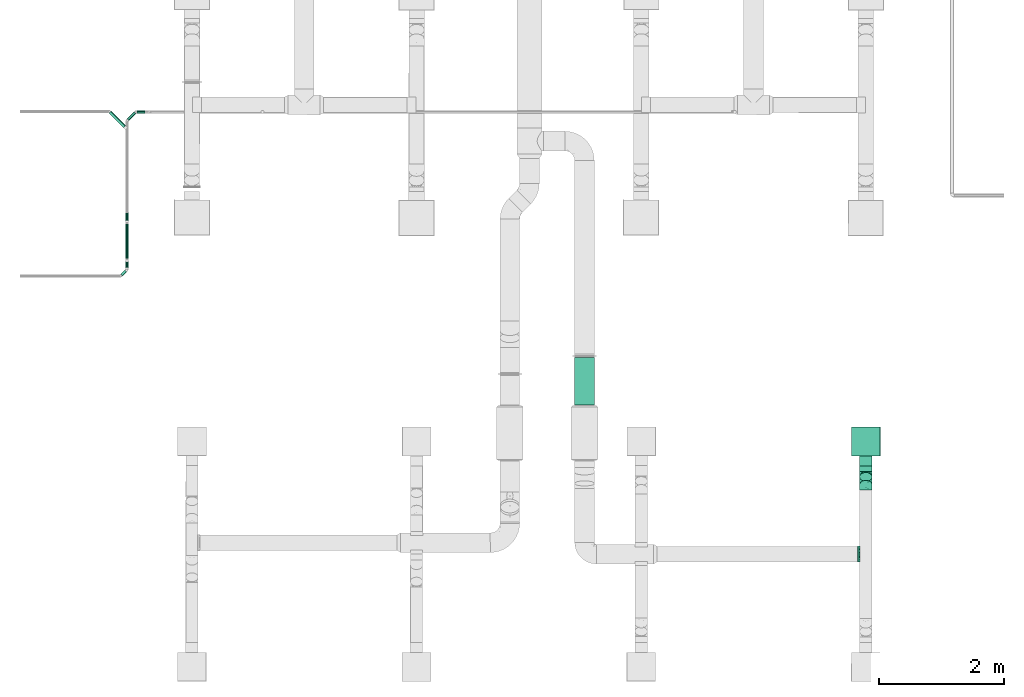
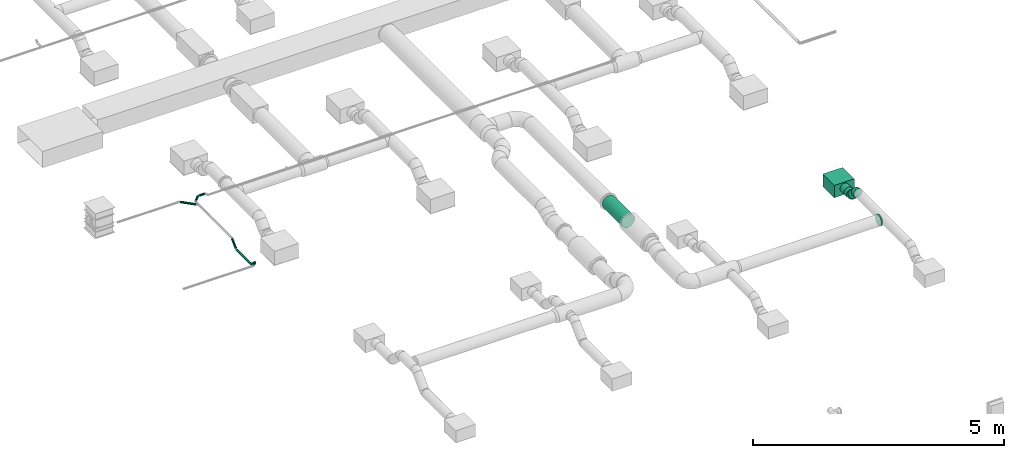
# One storey, part 17 of 63: 10 flow segments, 3 flow fittings, 1 flow terminal.
"""IFC2X3 building model written with IfcOpenShell, lengths in millimetres."""

from ifc_helpers import new_model, entity, si_unit, converted_unit, derived_unit, direction, frame, origin_with_axes, origin_2d_with_axis, place, context, subcontext, project, spatial, hollow_circle, extrude, open_shell, surface_model, source, transform, mapped, type_object, element, save


model = new_model("IFC2X3")

# Units and contexts
model_context = context("Model", 3, precision=0.01, world=frame((0.0, 4.29681676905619e-09, 0.0)), true_north=direction((4.01073788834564e-13, 1.0)))
plan_context = context("Plan", 3, precision=0.01, world=frame((0.0, 4.29681676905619e-09, 0.0)), true_north=direction((4.01073788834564e-13, 1.0)))
body_context = subcontext(model_context, "Body", "Model", "MODEL_VIEW")
ifc_project = project(units=[converted_unit("PLANEANGLEUNIT", "DEGREE", entity("IfcPositiveLengthMeasure", 0.0174532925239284), si_unit("PLANEANGLEUNIT", "RADIAN"), dimensions=[0, 0, 0, 0, 0, 0, 0]), si_unit("AREAUNIT", "SQUARE_METRE"), si_unit("LENGTHUNIT", "METRE", prefix="MILLI"), si_unit("MASSUNIT", "GRAM", prefix="KILO"), si_unit("POWERUNIT", "WATT"), si_unit("PRESSUREUNIT", "PASCAL"), si_unit("FORCEUNIT", "NEWTON", prefix="KILO"), si_unit("ELECTRICVOLTAGEUNIT", "VOLT"), si_unit("ELECTRICCURRENTUNIT", "AMPERE"), si_unit("THERMODYNAMICTEMPERATUREUNIT", "DEGREE_CELSIUS"), si_unit("TIMEUNIT", "SECOND"), si_unit("VOLUMEUNIT", "CUBIC_METRE"), derived_unit("LINEARVELOCITYUNIT", [(si_unit("LENGTHUNIT", "METRE"), 1), (si_unit("TIMEUNIT", "SECOND"), -1)]), derived_unit("VOLUMETRICFLOWRATEUNIT", [(si_unit("VOLUMEUNIT", "CUBIC_METRE"), 1), (si_unit("TIMEUNIT", "SECOND"), -1)]), derived_unit("THERMALTRANSMITTANCEUNIT", [(si_unit("POWERUNIT", "WATT"), 1), (si_unit("THERMODYNAMICTEMPERATUREUNIT", "KELVIN"), -1), (si_unit("AREAUNIT", "SQUARE_METRE"), -1)]), derived_unit("SOUNDPRESSUREUNIT", [(si_unit("PRESSUREUNIT", "PASCAL"), 1)])], contexts=[model_context, plan_context])

# Site, building, storey
site_placement = place(None, frame((0.0, -4.29681676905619e-09, 0.0), z_axis=(0.0, 0.0, 1.0), x_axis=(1.0, 0.0, 0.0)))
site = spatial("IfcSite", under=ifc_project, at=site_placement, CompositionType="ELEMENT")
building_placement = place(site_placement, frame((0.0, 4.29681676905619e-09, 0.0), z_axis=(0.0, 0.0, 1.0), x_axis=(1.0, 0.0, 0.0)))
building = spatial("IfcBuilding", under=site, at=building_placement, Name="mc-building", CompositionType="ELEMENT")
storey_placement = place(building_placement, frame((0.0, 0.0, 210900.0), z_axis=(0.0, 0.0, 1.0), x_axis=(1.0, 0.0, 0.0)))
storey = spatial("IfcBuildingStorey", under=building, at=storey_placement, Name="Nivå F", CompositionType="ELEMENT", Elevation=210900.0)

# Flow fittings
duct_fitting_type_1 = type_object("IfcDuctFittingType", Name="magicirc_elbow_short_001", PredefinedType="BEND")
shared_shape_1 = source(origin_with_axes(), body_context, "Body", "SurfaceModel", [
    surface_model("IfcShellBasedSurfaceModel", [(-49.70563, 50.0, -86.60254), (-49.70563, 25.8819, -96.59259), (-49.70563, 70.71068, -70.71068), (-49.70563, 96.59259, -25.8819), (-49.70563, 86.60254, -50.0), (-49.70563, 86.60254, 50.0), (-49.70563, 96.59259, 25.8819), (-49.70563, 25.8819, 96.59259), (-49.70563, 50.0, 86.60254), (-49.70563, 70.71068, 70.71068), (-49.70563, -25.8819, 96.59259), (-49.70563, 0.0, 100.0), (-49.70563, 100.0, 0.0), (12.37742, -29.88175, 90.64522), (37.12404, -18.70607, 89.97421), (4.68854, -11.31914, 97.51858), (-15.97928, 38.57739, 94.78597), (-33.08073, 79.86395, 64.3352), (-38.64634, 93.30051, 41.23913), (-23.56301, 62.37217, 82.35825), (22.87885, -55.23445, 71.73393), (28.07272, 6.98114, 98.51039), (7.39001, 23.69873, 99.67584), (-26.09006, 96.38443, 50.0), (16.84592, 53.44845, 96.59259), (-33.15408, 103.44845, 25.8819), (-0.20815, 70.50252, 86.60254), (-49.70563, 0.0, -100.0), (-21.98306, 11.532, -99.67584), (4.68854, -11.31915, -97.51858), (6.95764, 23.32334, -99.68416), (-15.97928, 38.57738, -94.78597), (-0.20815, 70.50252, -86.60254), (16.84592, 53.44845, -96.59259), (60.35471, -50.93633, -55.32131), (28.49827, -69.68635, -52.39492), (22.87886, -55.23445, -71.73393), (28.07272, 6.98113, -98.51039), (-49.70565, -96.59259, -25.8819), (-49.70565, -100.0, 0.0), (-49.70565, -86.60254, -50.0), (-14.85282, 85.14719, -70.71068), (-26.09007, 96.38443, -50.0), (-33.1541, 103.44846, -25.8819), (-24.86597, -97.5535, 0.0), (-6.78576, -95.77276, 0.0), (-18.13184, -91.89202, 33.47276), (-13.02349, -39.47786, 89.97421), (-18.231, -62.02139, 76.22982), (-21.41192, 11.5723, 99.68416), (-49.70565, -86.60254, 50.0), (-49.70565, -96.59259, 25.8819), (22.49479, -82.45996, 31.38069), (50.71647, -68.4272, 35.42053), (29.12437, -69.42701, 52.3949), (13.84949, -89.51313, 0.0), (34.48473, -83.25349, 0.0), (12.37743, -29.88176, -90.64522), (-13.02349, -39.47786, -89.97421), (-42.05198, 101.52241, 0.0), (-35.56351, 105.85786, 0.0), (-38.64635, 93.30051, -41.23913), (37.12406, -18.70605, -89.97421), (1.72867, -92.12319, -18.52111), (-33.08075, 79.86395, -64.3352), (-27.44224, 60.76535, -82.35825), (-24.78683, -14.914, 98.51039), (-49.70565, -70.71068, -70.71068), (-6.65981, -78.69465, -55.32131), (-24.78683, -14.91401, -98.51039), (-49.70563, -50.0, -86.60254), (-49.70563, -25.8819, -96.59259), (-49.70563, -70.71068, 70.71068), (-49.70563, -50.0, 86.60254), (35.14719, 35.1472, -100.0), (103.44846, -33.15406, 25.8819), (96.38444, -26.09004, -50.0), (53.44846, 16.84593, -96.59259), (85.14719, -14.8528, -70.71068), (70.50253, -0.20814, -86.60254), (105.85787, -35.56347, 0.0), (103.44846, -33.15406, -25.8819), (-14.85282, 85.14719, 70.71068), (85.14719, -14.8528, 70.71068), (96.38444, -26.09004, 50.0), (70.50253, -0.20814, 86.60254), (53.44846, 16.84593, 96.59259), (35.14719, 35.1472, 100.0), (-6.6598, -78.69465, 55.32131), (42.49431, -77.9055, 18.20626), (72.51983, -62.9233, 0.0), (86.56365, -51.39784, 0.0), (63.91858, -66.36329, 18.52111), (77.79861, -52.15632, 33.47277), (60.35471, -50.93634, 55.32131), (56.74699, -30.96449, 76.22981), (53.50228, -73.08841, 0.0), (-18.13182, -91.89201, -33.47277), (77.79861, -52.15632, -33.47277), (-18.23098, -62.02139, -76.22982), (42.40177, -74.21421, -31.38069), (12.52339, -84.24729, -35.42053), (25.03951, -85.13552, -18.20627), (56.747, -30.96448, -76.22982)], [open_shell([[[0, 1, 2]], [[3, 4, 2]], [[5, 6, 7]], [[7, 8, 9]], [[5, 7, 9]], [[10, 11, 7]], [[6, 12, 3]], [[13, 14, 15]], [[8, 7, 16]], [[17, 5, 9]], [[6, 5, 18]], [[19, 8, 16]], [[13, 20, 14]], [[15, 21, 22]], [[17, 23, 18]], [[16, 22, 24]], [[25, 18, 23]], [[24, 26, 16]], [[26, 19, 16]], [[8, 19, 9]], [[19, 17, 9]], [[14, 21, 15]], [[6, 18, 25]], [[17, 18, 5]], [[27, 1, 28]], [[29, 28, 30]], [[31, 28, 1]], [[0, 31, 1]], [[32, 33, 31]], [[31, 33, 30]], [[30, 28, 31]], [[34, 35, 36]], [[30, 37, 29]], [[38, 39, 40]], [[41, 42, 43]], [[44, 45, 46]], [[47, 48, 20]], [[15, 22, 49]], [[46, 50, 51]], [[46, 51, 44]], [[52, 53, 54]], [[49, 22, 16]], [[51, 39, 44]], [[46, 55, 52]], [[15, 47, 13]], [[20, 13, 47]], [[55, 46, 45]], [[55, 56, 52]], [[57, 36, 58]], [[59, 60, 43]], [[43, 42, 61]], [[62, 57, 29]], [[45, 44, 63]], [[42, 41, 64]], [[65, 64, 41]], [[64, 61, 42]], [[55, 45, 63]], [[44, 39, 38]], [[36, 57, 62]], [[58, 29, 57]], [[15, 66, 47]], [[49, 66, 15]], [[67, 68, 40]], [[29, 69, 28]], [[58, 69, 29]], [[27, 67, 1]], [[40, 2, 1]], [[2, 40, 3]], [[70, 67, 71]], [[67, 27, 71]], [[40, 1, 67]], [[40, 39, 3]], [[39, 6, 3]], [[7, 6, 39]], [[10, 7, 39]], [[72, 73, 50]], [[51, 50, 73]], [[73, 10, 51]], [[51, 10, 39]], [[74, 75, 76]], [[41, 33, 32]], [[33, 75, 74]], [[33, 41, 75]], [[77, 78, 79]], [[77, 74, 78]], [[76, 80, 81]], [[78, 74, 76]], [[76, 75, 80]], [[41, 43, 23]], [[25, 23, 43]], [[23, 24, 41]], [[82, 26, 24]], [[82, 24, 23]], [[41, 24, 75]], [[75, 83, 84]], [[83, 75, 85]], [[75, 86, 85]], [[75, 24, 86]], [[24, 87, 86]], [[43, 60, 25]], [[88, 50, 46]], [[88, 52, 54]], [[73, 48, 47]], [[72, 50, 88]], [[66, 11, 10]], [[7, 11, 49]], [[10, 73, 47]], [[17, 19, 82]], [[16, 7, 49]], [[73, 72, 48]], [[56, 89, 52]], [[59, 6, 25]], [[90, 91, 92]], [[59, 12, 6]], [[53, 93, 94]], [[66, 49, 11]], [[88, 46, 52]], [[72, 88, 48]], [[86, 21, 14]], [[94, 84, 83]], [[85, 86, 14]], [[93, 84, 94]], [[83, 85, 95]], [[14, 95, 85]], [[93, 91, 75]], [[86, 87, 21]], [[53, 92, 93]], [[60, 59, 25]], [[87, 24, 22]], [[95, 20, 94]], [[82, 19, 26]], [[84, 93, 75]], [[20, 95, 14]], [[89, 96, 92]], [[94, 83, 95]], [[20, 48, 88]], [[82, 23, 17]], [[54, 94, 20]], [[94, 54, 53]], [[88, 54, 20]], [[47, 66, 10]], [[22, 21, 87]], [[92, 53, 89]], [[53, 52, 89]], [[96, 89, 56]], [[96, 90, 92]], [[93, 92, 91]], [[91, 80, 75]], [[78, 76, 34]], [[77, 79, 62]], [[69, 71, 27]], [[4, 61, 64]], [[32, 65, 41]], [[31, 0, 65]], [[0, 2, 65]], [[33, 74, 30]], [[61, 3, 43]], [[68, 97, 40]], [[98, 81, 91]], [[97, 44, 38]], [[99, 70, 58]], [[100, 101, 35]], [[99, 67, 70]], [[40, 97, 38]], [[101, 97, 68]], [[70, 71, 58]], [[102, 55, 63]], [[99, 36, 68]], [[56, 102, 100]], [[3, 12, 59]], [[68, 67, 99]], [[32, 31, 65]], [[34, 100, 35]], [[69, 58, 71]], [[4, 64, 2]], [[62, 29, 37]], [[36, 62, 103]], [[62, 79, 103]], [[98, 76, 81]], [[74, 77, 37]], [[98, 34, 76]], [[64, 65, 2]], [[98, 91, 90]], [[101, 63, 97]], [[100, 34, 98]], [[79, 78, 103]], [[37, 30, 74]], [[36, 103, 34]], [[43, 3, 59]], [[36, 99, 58]], [[78, 34, 103]], [[35, 68, 36]], [[97, 63, 44]], [[68, 35, 101]], [[28, 69, 27]], [[62, 37, 77]], [[63, 101, 102]], [[101, 100, 102]], [[98, 96, 100]], [[55, 102, 56]], [[3, 61, 4]], [[81, 80, 91]], [[96, 98, 90]], [[96, 56, 100]]])]),
])
for number, where, z_axis, x_axis, name in (
    (1, (534105.56807, 446665.21066, 3935.01186999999), (-0.999999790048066, 0.000647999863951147, 0.0), (-0.000647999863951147, -0.999999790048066, 0.0), "magicirc_elbow_short_001"),
    (2, (534105.44099, 446469.02263, 4131.20000000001), (0.999999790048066, -0.000647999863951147, -3.79470760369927e-19), (-0.000458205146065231, -0.707106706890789, 0.707106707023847), "magicirc_elbow_short_001"),
):
    element("IfcFlowFitting", number, at=place(storey_placement, frame(where, z_axis=z_axis, x_axis=x_axis)), inside=storey, type_object=duct_fitting_type_1, Name=name, context=body_context, shape_type="MappedRepresentation", body=[
        mapped(shared_shape_1, transform((0.0, 0.0, 0.0), scale=1.0)),
    ])
duct_fitting_type_2 = type_object("IfcDuctFittingType", Name="magicirc_tapoutlet_001", PredefinedType="CONNECTOR")
shared_shape_2 = source(origin_with_axes(), body_context, "Body", "SurfaceModel", [
    surface_model("IfcShellBasedSurfaceModel", [(25.0, 62.5, -108.25318), (25.0, 125.0, 0.0), (25.0, 32.35238, -120.74073), (25.0, -88.38835, -88.38835), (25.0, 0.0, -125.0), (25.0, -120.74073, 32.35238), (25.0, -62.5, -108.25318), (25.0, -32.35238, -120.74073), (25.0, -108.25318, -62.5), (25.0, -120.74073, -32.35238), (25.0, -125.0, 0.0), (25.0, 108.25318, -62.5), (25.0, 120.74073, -32.35238), (25.0, 120.74073, 32.35238), (25.0, 108.25318, 62.5), (25.0, 88.38835, 88.38835), (25.0, 32.35238, 120.74073), (25.0, 62.5, 108.25318), (25.0, -62.5, 108.25318), (25.0, -88.38835, 88.38835), (25.0, -108.25318, 62.5), (25.0, 0.0, 125.0), (25.0, -32.35238, 120.74073), (0.0, 0.0, 125.0), (0.0, 32.35238, 120.74073), (0.0, 62.5, 108.25318), (0.0, 88.38835, 88.38835), (0.0, 108.25318, 62.5), (0.0, 120.74073, 32.35238), (0.0, 125.0, 0.0), (0.0, 120.74073, -32.35238), (0.0, 108.25318, -62.5), (25.0, 88.38835, -88.38835), (0.0, 88.38835, -88.38835), (0.0, 0.0, -125.0), (0.0, 32.35238, -120.74073), (0.0, 62.5, -108.25318), (0.0, -32.35238, -120.74073), (0.0, -62.5, -108.25318), (0.0, -88.38835, -88.38835), (0.0, -108.25318, -62.5), (0.0, -120.74073, -32.35238), (0.0, -125.0, 0.0), (0.0, -120.74073, 32.35238), (0.0, -108.25318, 62.5), (0.0, -88.38835, 88.38835), (0.0, -62.5, 108.25318), (0.0, -32.35238, 120.74073), (-6.17869, 0.0, -125.0), (-6.17869, -32.35238, -120.74073), (-6.17869, 32.35238, -120.74073), (-6.17869, 120.74073, 32.35238), (-6.17869, 62.5, -108.25318), (-6.17869, 88.38835, -88.38835), (-6.17869, 108.25318, -62.5), (-6.17869, -125.0, 0.0), (-6.17869, -120.74073, 32.35238), (-6.17869, -88.38835, -88.38835), (-6.17869, -62.5, -108.25318), (-6.17869, -120.74073, -32.35238), (-6.17869, -108.25318, -62.5), (-6.17869, 120.74073, -32.35238), (-6.17869, 108.25318, 62.5), (-6.17869, 62.5, 108.25318), (-6.17869, 32.35238, 120.74073), (-6.17869, 88.38835, 88.38835), (-6.17869, 0.0, 125.0), (-6.17869, -108.25318, 62.5), (-6.17869, -88.38835, 88.38835), (-6.17869, -32.35238, 120.74073), (-6.17869, -62.5, 108.25318), (-6.17869, 125.0, 0.0)], [open_shell([[[0, 1, 2]], [[3, 4, 5]], [[4, 3, 6]], [[6, 7, 4]], [[8, 5, 9]], [[5, 10, 9]], [[1, 11, 12]], [[13, 14, 4]], [[4, 14, 15]], [[16, 4, 17]], [[4, 15, 17]], [[18, 4, 16]], [[19, 20, 4]], [[16, 21, 22]], [[23, 21, 16]], [[24, 16, 17]], [[23, 16, 24]], [[25, 15, 26]], [[25, 24, 17]], [[15, 25, 17]], [[27, 14, 13]], [[28, 13, 1]], [[26, 14, 27]], [[28, 27, 13]], [[29, 28, 1]], [[14, 26, 15]], [[29, 1, 12]], [[30, 12, 11]], [[29, 12, 30]], [[31, 32, 33]], [[31, 30, 11]], [[32, 31, 11]], [[2, 4, 34]], [[0, 2, 35]], [[33, 0, 36]], [[34, 35, 2]], [[0, 35, 36]], [[0, 33, 32]], [[34, 4, 7]], [[37, 7, 6]], [[34, 7, 37]], [[38, 3, 39]], [[38, 37, 6]], [[3, 38, 6]], [[40, 8, 9]], [[41, 9, 10]], [[39, 8, 40]], [[41, 40, 9]], [[42, 41, 10]], [[8, 39, 3]], [[42, 10, 5]], [[43, 5, 20]], [[42, 5, 43]], [[44, 19, 45]], [[44, 43, 20]], [[19, 44, 20]], [[46, 18, 22]], [[47, 22, 21]], [[45, 18, 46]], [[47, 46, 22]], [[23, 47, 21]], [[18, 45, 19]], [[8, 3, 5]], [[10, 9, 5]], [[19, 4, 18]], [[16, 22, 18]], [[1, 13, 4]], [[2, 1, 4]], [[32, 11, 1]], [[32, 1, 0]], [[4, 6, 7]], [[4, 14, 17]], [[17, 14, 15]], [[4, 16, 18]], [[4, 20, 5]], [[14, 4, 13]], [[17, 16, 4]], [[4, 19, 20]], [[4, 18, 19]], [[21, 22, 16]], [[4, 1, 13]], [[48, 49, 50]], [[50, 51, 52]], [[53, 51, 54]], [[52, 51, 53]], [[50, 55, 56]], [[57, 55, 58]], [[50, 49, 58]], [[59, 55, 60]], [[57, 60, 55]], [[58, 55, 50]], [[61, 54, 51]], [[62, 51, 50]], [[63, 62, 50]], [[63, 50, 64]], [[65, 62, 63]], [[66, 64, 50]], [[56, 67, 50]], [[67, 68, 50]], [[69, 66, 70]], [[68, 70, 66]], [[50, 68, 66]], [[71, 61, 51]], [[66, 23, 24]], [[64, 24, 25]], [[66, 24, 64]], [[63, 26, 65]], [[63, 64, 25]], [[26, 63, 25]], [[62, 27, 28]], [[51, 28, 29]], [[65, 27, 62]], [[51, 62, 28]], [[71, 51, 29]], [[27, 65, 26]], [[71, 29, 30]], [[61, 30, 31]], [[71, 30, 61]], [[54, 33, 53]], [[54, 61, 31]], [[33, 54, 31]], [[35, 34, 48]], [[36, 35, 50]], [[53, 36, 52]], [[48, 50, 35]], [[36, 50, 52]], [[36, 53, 33]], [[48, 34, 37]], [[49, 37, 38]], [[48, 37, 49]], [[58, 39, 57]], [[58, 49, 38]], [[39, 58, 38]], [[60, 40, 41]], [[59, 41, 42]], [[57, 40, 60]], [[59, 60, 41]], [[55, 59, 42]], [[40, 57, 39]], [[55, 42, 43]], [[56, 43, 44]], [[55, 43, 56]], [[67, 45, 68]], [[67, 56, 44]], [[45, 67, 44]], [[70, 46, 47]], [[69, 47, 23]], [[68, 46, 70]], [[69, 70, 47]], [[66, 69, 23]], [[46, 68, 45]]])]),
])
flow_fitting_placement = place(storey_placement, frame((534004.74383, 445392.76929, 4131.19871999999), z_axis=(0.0, 0.0, 1.0), x_axis=(-1.0, 0.0, 0.0)))
element("IfcFlowFitting", 3, at=flow_fitting_placement, inside=storey, type_object=duct_fitting_type_2, Name="magicirc_tapoutlet_001", context=body_context, shape_type="MappedRepresentation", body=[
    mapped(shared_shape_2, transform((0.0, 0.0, 0.0), scale=1.0)),
])

# Flow segments
duct_segment_type_1 = type_object("IfcDuctSegmentType", Name="Sirkulær kanal", PredefinedType="RIGIDSEGMENT")
shared_shape_3 = source(origin_with_axes(), body_context, "Body", "SweptSolid", [
    extrude(hollow_circle(Radius=25.0, WallThickness=2.0, at=origin_2d_with_axis()), frame((0.0, 0.0, 0.0), z_axis=(1.0, 0.0, 0.0), x_axis=(0.0, 1.0, 0.0)), (0.0, 0.0, 1.0), 125.0),
])
flow_segment_1_placement = place(storey_placement, frame((522423.29393, 452482.42641, 4480.0), z_axis=(0.0, 0.0, 1.0), x_axis=(1.0, 0.0, 0.0)))
element("IfcFlowSegment", 4, at=flow_segment_1_placement, inside=storey, type_object=duct_segment_type_1, Name="Sirkulær kanal", context=body_context, shape_type="MappedRepresentation", body=[
    mapped(shared_shape_3, transform((0.0, 0.0, 0.0), scale=1.0)),
])
shared_shape_4 = source(origin_with_axes(), body_context, "Body", "SweptSolid", [
    extrude(hollow_circle(Radius=25.0, WallThickness=2.0, at=origin_2d_with_axis()), frame((0.0, 0.0, 0.0), z_axis=(1.0, 0.0, 0.0), x_axis=(0.0, 1.0, 0.0)), (0.0, 0.0, 1.0), 160.2),
])
flow_segment_2_placement = place(storey_placement, frame((522274.64466, 452354.48782, 4480.0), z_axis=(0.0, 0.0, 1.0), x_axis=(0.707106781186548, 0.707106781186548, 0.0)))
element("IfcFlowSegment", 5, at=flow_segment_2_placement, inside=storey, type_object=duct_segment_type_1, Name="Sirkulær kanal", context=body_context, shape_type="MappedRepresentation", body=[
    mapped(shared_shape_4, transform((0.0, 0.0, 0.0), scale=1.0)),
])
shared_shape_5 = source(origin_with_axes(), body_context, "Body", "SweptSolid", [
    extrude(hollow_circle(Radius=25.0, WallThickness=2.0, at=origin_2d_with_axis()), frame((0.0, 0.0, 0.0), z_axis=(1.0, 0.0, 0.0), x_axis=(0.0, 1.0, 0.0)), (0.0, 0.0, 1.0), 213.6),
])
flow_segment_3_placement = place(storey_placement, frame((522260.0, 450875.1985, 4465.35534000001), z_axis=(0.0, -0.707106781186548, 0.707106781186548), x_axis=(0.0, -0.707106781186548, -0.707106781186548)))
element("IfcFlowSegment", 6, at=flow_segment_3_placement, inside=storey, type_object=duct_segment_type_1, Name="Sirkulær kanal", context=body_context, shape_type="MappedRepresentation", body=[
    mapped(shared_shape_5, transform((0.0, 0.0, 0.0), scale=1.0)),
])
shared_shape_6 = source(origin_with_axes(), body_context, "Body", "SweptSolid", [
    extrude(hollow_circle(Radius=25.0, WallThickness=2.0, at=origin_2d_with_axis()), frame((0.0, 0.0, 0.0), z_axis=(1.0, 0.0, 0.0), x_axis=(0.0, 1.0, 0.0)), (0.0, 0.0, 1.0), 558.6),
])
flow_segment_4_placement = place(storey_placement, frame((522260.0, 450688.82025, 4299.68776999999), z_axis=(0.0, 0.0, 1.0), x_axis=(0.0, -1.0, 0.0)))
element("IfcFlowSegment", 7, at=flow_segment_4_placement, inside=storey, type_object=duct_segment_type_1, Name="Sirkulær kanal", context=body_context, shape_type="MappedRepresentation", body=[
    mapped(shared_shape_6, transform((0.0, 0.0, 0.0), scale=1.0)),
])
shared_shape_7 = source(origin_with_axes(), body_context, "Body", "SweptSolid", [
    extrude(hollow_circle(Radius=25.0, WallThickness=2.0, at=origin_2d_with_axis()), frame((0.0, 0.0, 0.0), z_axis=(1.0, 0.0, 0.0), x_axis=(0.0, 1.0, 0.0)), (0.0, 0.0, 1.0), 175.4),
])
flow_segment_5_placement = place(storey_placement, frame((522260.0, 450094.88627, 4314.33243000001), z_axis=(0.0, 0.707106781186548, 0.707106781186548), x_axis=(0.0, -0.707106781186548, 0.707106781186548)))
element("IfcFlowSegment", 8, at=flow_segment_5_placement, inside=storey, type_object=duct_segment_type_1, Name="Sirkulær kanal", context=body_context, shape_type="MappedRepresentation", body=[
    mapped(shared_shape_7, transform((0.0, 0.0, 0.0), scale=1.0)),
])
shared_shape_8 = source(origin_with_axes(), body_context, "Body", "SweptSolid", [
    extrude(hollow_circle(Radius=25.0, WallThickness=2.0, at=origin_2d_with_axis()), frame((0.0, 0.0, 0.0), z_axis=(1.0, 0.0, 0.0), x_axis=(0.0, 1.0, 0.0)), (0.0, 0.0, 1.0), 90.4),
])
flow_segment_6_placement = place(storey_placement, frame((522239.5894, 449930.0213, 4458.78951999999), z_axis=(6.59999997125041e-05, 6.59999997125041e-05, 0.999999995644), x_axis=(-0.70710677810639, -0.70710677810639, 9.33380947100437e-05)))
element("IfcFlowSegment", 9, at=flow_segment_6_placement, inside=storey, type_object=duct_segment_type_1, Name="Sirkulær kanal", context=body_context, shape_type="MappedRepresentation", body=[
    mapped(shared_shape_8, transform((0.0, 0.0, 0.0), scale=1.0)),
])
shared_shape_9 = source(origin_with_axes(), body_context, "Body", "SweptSolid", [
    extrude(hollow_circle(Radius=25.0, WallThickness=2.0, at=origin_2d_with_axis()), frame((0.0, 0.0, 0.0), z_axis=(1.0, 0.0, 0.0), x_axis=(0.0, 1.0, 0.0)), (0.0, 0.0, 1.0), 325.9),
])
flow_segment_7_placement = place(storey_placement, frame((522220.85786, 452244.88772, 4480.0), z_axis=(0.0, 0.0, 1.0), x_axis=(-0.707106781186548, 0.707106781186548, 0.0)))
element("IfcFlowSegment", 10, at=flow_segment_7_placement, inside=storey, type_object=duct_segment_type_1, Name="Sirkulær kanal", context=body_context, shape_type="MappedRepresentation", body=[
    mapped(shared_shape_9, transform((0.0, 0.0, 0.0), scale=1.0)),
])
duct_segment_type_2 = type_object("IfcDuctSegmentType", Name="KK002T - Spiro kanaler, Forsinket stål, korte bend", PredefinedType="RIGIDSEGMENT")
shared_shape_10 = source(origin_with_axes(), body_context, "Body", "SweptSolid", [
    extrude(hollow_circle(Radius=100.0, WallThickness=2.0, at=origin_2d_with_axis()), frame((0.0, 0.0, 0.0), z_axis=(1.0, 0.0, 0.0), x_axis=(0.0, 1.0, 0.0)), (0.0, 0.0, 1.0), 178.0),
])
flow_segment_8_placement = place(storey_placement, frame((534105.5453, 446630.06348, 3970.15906999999), z_axis=(0.00045799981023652, 0.707106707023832, 0.707106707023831), x_axis=(-0.000457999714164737, -0.707106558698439, 0.707106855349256)))
element("IfcFlowSegment", 11, at=flow_segment_8_placement, inside=storey, type_object=duct_segment_type_2, Name="KK002T - Spiro kanaler, Forsinket stål, korte bend", context=body_context, shape_type="MappedRepresentation", body=[
    mapped(shared_shape_10, transform((0.0, 0.0, 0.0), scale=1.0)),
])
shared_shape_11 = source(origin_with_axes(), body_context, "Body", "SweptSolid", [
    extrude(hollow_circle(Radius=100.0, WallThickness=2.0, at=origin_2d_with_axis()), frame((0.0, 0.0, 0.0), z_axis=(1.0, 0.0, 0.0), x_axis=(0.0, 1.0, 0.0)), (0.0, 0.0, 1.0), 93.1),
])
flow_segment_9_placement = place(storey_placement, frame((534105.6606, 446808.06158, 3935.01186999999), z_axis=(0.0, 0.0, 1.0), x_axis=(-0.000647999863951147, -0.999999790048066, 0.0)))
element("IfcFlowSegment", 12, at=flow_segment_9_placement, inside=storey, type_object=duct_segment_type_2, Name="KK002T - Spiro kanaler, Forsinket stål, korte bend", context=body_context, shape_type="MappedRepresentation", body=[
    mapped(shared_shape_11, transform((0.0, 0.0, 0.0), scale=1.0)),
])
shared_shape_12 = source(origin_with_axes(), body_context, "Body", "SweptSolid", [
    extrude(hollow_circle(Radius=157.5, WallThickness=2.0, at=origin_2d_with_axis()), frame((0.0, 0.0, 0.0), z_axis=(1.0, 0.0, 0.0), x_axis=(0.0, 1.0, 0.0)), (0.0, 0.0, 1.0), 760.1),
])
flow_segment_10_placement = place(storey_placement, frame((529594.70329, 447782.40275, 4200.0), z_axis=(0.0, 0.0, 1.0), x_axis=(0.0, 1.0, 0.0)))
element("IfcFlowSegment", 13, at=flow_segment_10_placement, inside=storey, type_object=duct_segment_type_1, Name="Sirkulær kanal", context=body_context, shape_type="MappedRepresentation", body=[
    mapped(shared_shape_12, transform((0.0, 0.0, 0.0), scale=1.0)),
])

# Flow terminal
air_terminal_type = type_object("IfcAirTerminalType", Name="NS19-H-S-2-200 - 4-way", PredefinedType="NOTDEFINED")
shared_shape_13 = source(origin_with_axes(), body_context, "Body", "SurfaceModel", [
    surface_model("IfcShellBasedSurfaceModel", [(-231.99999, 231.99999, 0.0), (-231.99999, -231.99999, 0.0), (231.99999, -231.99999, 0.0), (231.99999, 231.99999, 0.0), (231.99999, 231.99999, -10.0), (231.99999, -231.99999, -10.0), (-231.99999, -231.99999, -10.0), (-231.99999, 231.99999, -10.0), (-230.0, 230.0, 289.99999), (-230.0, -230.0, 289.99999), (230.0, -230.0, 289.99999), (230.0, 230.0, 289.99999), (230.0, 230.0, 0.0), (230.0, -230.0, 0.0), (-230.0, -230.0, 0.0), (-230.0, 230.0, 0.0), (-230.0, 50.0, 78.39746), (-230.0, 70.71068, 94.28932), (-230.0, 49.9, 78.57067), (-230.0, 25.83014, 68.6006), (-230.0, 0.0, 65.2), (-230.0, 25.8819, 68.40742), (-230.0, 0.0, 65.0), (-230.0, 70.56926, 94.43075), (-230.0, 96.59259, 139.1181), (-230.0, 99.8, 164.99999), (-230.0, 96.39939, 139.16986), (-230.0, 100.0, 164.99999), (-230.0, 86.60254, 115.0), (-230.0, 86.42934, 115.1), (-230.0, -25.83014, 68.6006), (-230.0, -25.8819, 68.40742), (-230.0, -49.9, 78.57067), (-230.0, -70.71068, 94.28932), (-230.0, -50.0, 78.39746), (-230.0, -70.56926, 94.43075), (-230.0, -86.42934, 115.1), (-230.0, -86.60254, 115.0), (-230.0, -96.39939, 139.16986), (-230.0, -96.59259, 139.1181), (-230.0, -99.8, 164.99999), (-230.0, -100.0, 164.99999), (-230.0, 96.59259, 190.8819), (-230.0, 96.39939, 190.83014), (-230.0, 86.42934, 214.9), (-230.0, 86.60254, 214.99999), (-230.0, 70.56926, 235.56925), (-230.0, 70.71068, 235.71069), (-230.0, 50.0, 251.60254), (-230.0, 49.9, 251.42933), (-230.0, 25.83014, 261.3994), (-230.0, 25.8819, 261.59259), (-230.0, 0.0, 264.80001), (-230.0, 0.0, 264.99999), (-230.0, -86.60254, 214.99999), (-230.0, -86.42934, 214.9), (-230.0, -70.71068, 235.71069), (-230.0, -70.56926, 235.56925), (-230.0, -96.59259, 190.8819), (-230.0, -96.39939, 190.83014), (-230.0, -25.83014, 261.3994), (-230.0, -25.8819, 261.59259), (-230.0, -49.9, 251.42933), (-230.0, -50.0, 251.60254), (-390.0, 50.0, 251.60254), (-390.0, 70.71068, 235.71069), (-390.0, 49.9, 251.42933), (-390.0, 25.83014, 261.3994), (-390.0, 0.0, 264.80001), (-390.0, 25.8819, 261.59259), (-390.0, 0.0, 264.99999), (-390.0, 70.56926, 235.56925), (-390.0, 96.59259, 190.8819), (-390.0, 99.8, 164.99999), (-390.0, 96.39939, 190.83014), (-390.0, 100.0, 164.99999), (-390.0, 86.60254, 214.99999), (-390.0, 86.42934, 214.9), (-390.0, -25.83014, 261.3994), (-390.0, -25.8819, 261.59259), (-390.0, -49.9, 251.42933), (-390.0, -70.71068, 235.71069), (-390.0, -50.0, 251.60254), (-390.0, -70.56926, 235.56925), (-390.0, -86.42934, 214.9), (-390.0, -86.60254, 214.99999), (-390.0, -96.39939, 190.83014), (-390.0, -96.59259, 190.8819), (-390.0, -99.8, 164.99999), (-390.0, -100.0, 164.99999), (-390.0, 96.59259, 139.1181), (-390.0, 96.39939, 139.16986), (-390.0, 86.42934, 115.1), (-390.0, 86.60254, 115.0), (-390.0, 70.56926, 94.43075), (-390.0, 70.71068, 94.28932), (-390.0, 50.0, 78.39746), (-390.0, 49.9, 78.57067), (-390.0, 25.83014, 68.6006), (-390.0, 25.8819, 68.40742), (-390.0, 0.0, 65.2), (-390.0, 0.0, 65.0), (-390.0, -86.60254, 115.0), (-390.0, -86.42934, 115.1), (-390.0, -70.71068, 94.28932), (-390.0, -70.56926, 94.43075), (-390.0, -96.59259, 139.1181), (-390.0, -96.39939, 139.16986), (-390.0, -25.83014, 68.6006), (-390.0, -25.8819, 68.40742), (-390.0, -49.9, 78.57067), (-390.0, -50.0, 78.39746)], [open_shell([[[0, 1, 2]], [[2, 3, 0]], [[4, 5, 6]], [[6, 7, 4]], [[2, 1, 6]], [[6, 5, 2]], [[3, 2, 5]], [[5, 4, 3]], [[0, 3, 4]], [[4, 7, 0]], [[1, 0, 7]], [[7, 6, 1]], [[8, 9, 10]], [[10, 11, 8]], [[12, 13, 14]], [[14, 15, 12]], [[10, 9, 13]], [[14, 13, 9]], [[11, 10, 12]], [[13, 12, 10]], [[8, 11, 15]], [[12, 15, 11]], [[9, 8, 14]], [[15, 14, 8]], [[16, 17, 18]], [[16, 18, 19]], [[20, 21, 19]], [[21, 20, 22]], [[19, 21, 16]], [[18, 17, 23]], [[24, 25, 26]], [[25, 24, 27]], [[24, 26, 28]], [[23, 28, 29]], [[28, 23, 17]], [[29, 28, 26]], [[22, 30, 31]], [[31, 30, 32]], [[33, 34, 35]], [[32, 34, 31]], [[32, 35, 34]], [[22, 20, 30]], [[36, 37, 33]], [[37, 36, 38]], [[36, 33, 35]], [[39, 38, 40]], [[38, 39, 37]], [[39, 40, 41]], [[27, 42, 43]], [[43, 42, 44]], [[44, 45, 46]], [[45, 44, 42]], [[46, 45, 47]], [[47, 48, 49]], [[49, 48, 50]], [[50, 51, 52]], [[51, 50, 48]], [[52, 51, 53]], [[49, 46, 47]], [[54, 55, 56]], [[56, 55, 57]], [[55, 54, 58]], [[41, 59, 58]], [[58, 59, 55]], [[41, 40, 59]], [[60, 53, 61]], [[60, 61, 62]], [[57, 63, 56]], [[57, 62, 63]], [[63, 62, 61]], [[52, 53, 60]], [[43, 25, 27]], [[64, 65, 66]], [[64, 66, 67]], [[68, 69, 67]], [[69, 68, 70]], [[67, 69, 64]], [[66, 65, 71]], [[72, 73, 74]], [[73, 72, 75]], [[72, 74, 76]], [[71, 76, 77]], [[76, 71, 65]], [[77, 76, 74]], [[70, 78, 79]], [[79, 78, 80]], [[81, 82, 83]], [[80, 82, 79]], [[80, 83, 82]], [[70, 68, 78]], [[84, 85, 81]], [[85, 84, 86]], [[84, 81, 83]], [[87, 86, 88]], [[86, 87, 85]], [[87, 88, 89]], [[75, 90, 91]], [[91, 90, 92]], [[92, 93, 94]], [[93, 92, 90]], [[94, 93, 95]], [[95, 96, 97]], [[97, 96, 98]], [[98, 99, 100]], [[99, 98, 96]], [[100, 99, 101]], [[97, 94, 95]], [[102, 103, 104]], [[104, 103, 105]], [[103, 102, 106]], [[89, 107, 106]], [[106, 107, 103]], [[89, 88, 107]], [[108, 101, 109]], [[108, 109, 110]], [[105, 111, 104]], [[105, 110, 111]], [[111, 110, 109]], [[100, 101, 108]], [[91, 73, 75]], [[39, 106, 102]], [[104, 37, 102]], [[34, 111, 109]], [[104, 111, 33]], [[31, 109, 101]], [[106, 41, 89]], [[106, 39, 41]], [[102, 37, 39]], [[104, 33, 37]], [[34, 33, 111]], [[109, 31, 34]], [[101, 22, 31]], [[21, 99, 96]], [[95, 16, 96]], [[28, 93, 90]], [[95, 93, 17]], [[24, 90, 75]], [[99, 21, 22]], [[96, 16, 21]], [[95, 17, 16]], [[93, 28, 17]], [[24, 28, 90]], [[75, 27, 24]], [[99, 22, 101]], [[75, 72, 42]], [[48, 64, 69]], [[64, 47, 65]], [[51, 69, 70]], [[72, 45, 42]], [[42, 27, 75]], [[76, 47, 45]], [[76, 65, 47]], [[47, 64, 48]], [[69, 51, 48]], [[76, 45, 72]], [[70, 53, 51]], [[61, 79, 82]], [[81, 63, 82]], [[54, 85, 87]], [[81, 85, 56]], [[58, 87, 89]], [[79, 61, 53]], [[82, 63, 61]], [[81, 56, 63]], [[85, 54, 56]], [[58, 54, 87]], [[89, 41, 58]], [[79, 53, 70]], [[103, 107, 38]], [[103, 36, 105]], [[108, 110, 32]], [[35, 110, 105]], [[100, 108, 30]], [[88, 40, 107]], [[40, 38, 107]], [[38, 36, 103]], [[36, 35, 105]], [[110, 35, 32]], [[32, 30, 108]], [[30, 20, 100]], [[97, 98, 19]], [[97, 18, 94]], [[91, 92, 29]], [[23, 92, 94]], [[73, 91, 26]], [[20, 19, 98]], [[19, 18, 97]], [[18, 23, 94]], [[23, 29, 92]], [[91, 29, 26]], [[26, 25, 73]], [[100, 20, 98]], [[43, 74, 73]], [[67, 66, 49]], [[71, 46, 66]], [[68, 67, 50]], [[43, 44, 74]], [[73, 25, 43]], [[44, 46, 77]], [[46, 71, 77]], [[49, 66, 46]], [[49, 50, 67]], [[74, 44, 77]], [[50, 52, 68]], [[80, 78, 60]], [[80, 62, 83]], [[86, 84, 55]], [[57, 84, 83]], [[88, 86, 59]], [[52, 60, 78]], [[60, 62, 80]], [[62, 57, 83]], [[57, 55, 84]], [[86, 55, 59]], [[59, 40, 88]], [[68, 52, 78]]])]),
])
flow_terminal_placement = place(storey_placement, frame((534105.91324, 447198.08957, 3770.0), z_axis=(0.0, 0.0, 1.0), x_axis=(0.000647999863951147, 0.999999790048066, 0.0)))
element("IfcFlowTerminal", 14, at=flow_terminal_placement, inside=storey, type_object=air_terminal_type, Name="NS19-H-S-2-200 - 4-way", context=body_context, shape_type="MappedRepresentation", body=[
    mapped(shared_shape_13, transform((0.0, 0.0, 0.0), scale=1.0)),
])

save(model, "model.ifc")
